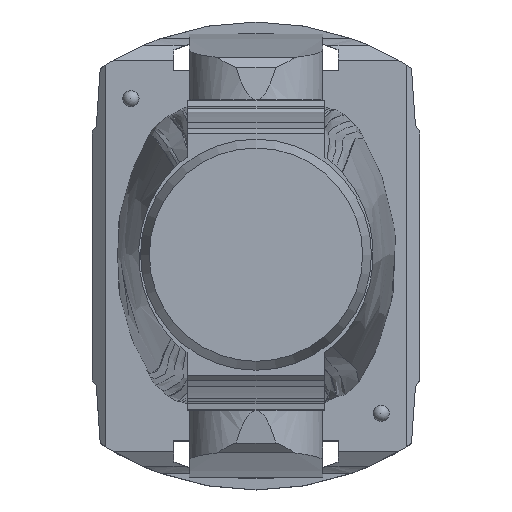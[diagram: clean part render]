
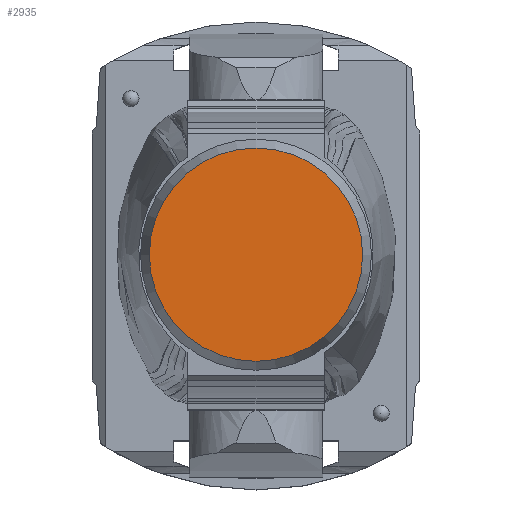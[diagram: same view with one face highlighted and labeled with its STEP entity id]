
A CAD part, top view. The second image highlights one B-rep face of the part: STEP entity #2935.
In plain terms, the highlighted planar face has unit normal (0, 0, 1).
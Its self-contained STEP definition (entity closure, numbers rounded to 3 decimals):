
#98=CIRCLE('',#3156,109.133);
#176=PLANE('',#3157);
#1225=ORIENTED_EDGE('',*,*,#1653,.F.);
#1653=EDGE_CURVE('',#1946,#1946,#98,.T.);
#1946=VERTEX_POINT('',#7132);
#2539=EDGE_LOOP('',(#1225));
#2724=FACE_BOUND('',#2539,.T.);
#2935=ADVANCED_FACE('',(#2724),#176,.F.);
#3156=AXIS2_PLACEMENT_3D('',#7131,#3732,#3733);
#3157=AXIS2_PLACEMENT_3D('',#7133,#3734,#3735);
#3732=DIRECTION('',(0.,0.,-1.));
#3733=DIRECTION('',(-1.,0.,0.));
#3734=DIRECTION('',(0.,0.,-1.));
#3735=DIRECTION('',(-1.,0.,0.));
#7131=CARTESIAN_POINT('',(0.,0.,821.401));
#7132=CARTESIAN_POINT('',(-109.133,0.,821.401));
#7133=CARTESIAN_POINT('',(0.,0.,821.401));
